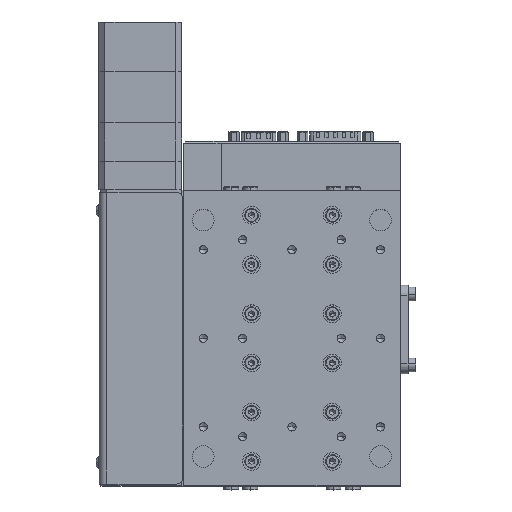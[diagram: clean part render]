
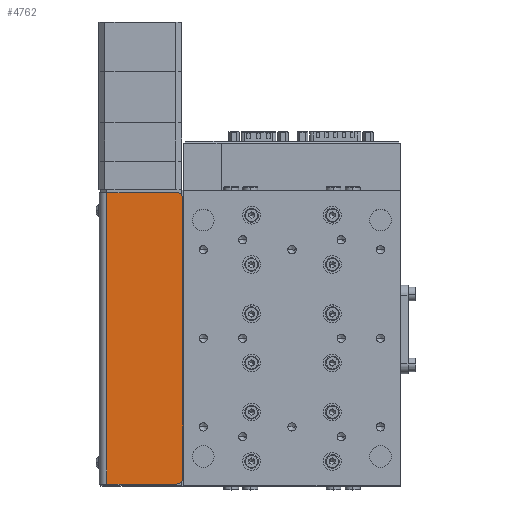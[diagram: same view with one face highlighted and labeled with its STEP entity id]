
A CAD part, top view. The second image highlights one B-rep face of the part: STEP entity #4762.
In plain terms, the highlighted planar face has unit normal (0, 0, 1).
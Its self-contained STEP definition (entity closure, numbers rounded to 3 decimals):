
#2863 = CARTESIAN_POINT ( 'NONE',  ( -94., 74., 41.1 ) ) ;
#3466 = DIRECTION ( 'NONE',  ( 0., 1., 0. ) ) ;
#3502 = DIRECTION ( 'NONE',  ( -1., 0., 0. ) ) ;
#3603 = VECTOR ( 'NONE', #3466, 1000. ) ;
#4762 = ADVANCED_FACE ( 'NONE', ( #47469 ), #36362, .F. ) ;
#5629 = AXIS2_PLACEMENT_3D ( 'NONE', #47266, #37577, #29061 ) ;
#5793 = DIRECTION ( 'NONE',  ( -1., 0., 0. ) ) ;
#7441 = DIRECTION ( 'NONE',  ( 0., 0., 1. ) ) ;
#8315 = CARTESIAN_POINT ( 'NONE',  ( -55.5, 71., 41.1 ) ) ;
#8987 = VERTEX_POINT ( 'NONE', #53202 ) ;
#11139 = EDGE_CURVE ( 'NONE', #16320, #39935, #42450, .T. ) ;
#11997 = EDGE_CURVE ( 'NONE', #49624, #22153, #27749, .T. ) ;
#12789 = DIRECTION ( 'NONE',  ( 0., 0., -1. ) ) ;
#13848 = EDGE_CURVE ( 'NONE', #32988, #16320, #14266, .T. ) ;
#13853 = CARTESIAN_POINT ( 'NONE',  ( -94., -133.391, 41.1 ) ) ;
#14266 = CIRCLE ( 'NONE', #18731, 3. ) ;
#16320 = VERTEX_POINT ( 'NONE', #38550 ) ;
#16625 = DIRECTION ( 'NONE',  ( 0., 1., 0. ) ) ;
#17171 = VECTOR ( 'NONE', #5793, 1000. ) ;
#18387 = CARTESIAN_POINT ( 'NONE',  ( -94., -74., 41.1 ) ) ;
#18731 = AXIS2_PLACEMENT_3D ( 'NONE', #43602, #7441, #21383 ) ;
#19319 = ORIENTED_EDGE ( 'NONE', *, *, #41140, .F. ) ;
#21383 = DIRECTION ( 'NONE',  ( -1., 0., 0. ) ) ;
#21603 = LINE ( 'NONE', #38280, #3603 ) ;
#22153 = VERTEX_POINT ( 'NONE', #42200 ) ;
#27749 = LINE ( 'NONE', #54990, #52732 ) ;
#27807 = AXIS2_PLACEMENT_3D ( 'NONE', #13853, #12789, #3502 ) ;
#28930 = LINE ( 'NONE', #18387, #17171 ) ;
#29061 = DIRECTION ( 'NONE',  ( -1., 0., 0. ) ) ;
#32329 = CARTESIAN_POINT ( 'NONE',  ( -58.5, -74., 41.1 ) ) ;
#32988 = VERTEX_POINT ( 'NONE', #32329 ) ;
#35930 = ORIENTED_EDGE ( 'NONE', *, *, #13848, .T. ) ;
#36362 = PLANE ( 'NONE',  #27807 ) ;
#37289 = EDGE_LOOP ( 'NONE', ( #19319, #35930, #38408, #51283, #42543, #40457 ) ) ;
#37577 = DIRECTION ( 'NONE',  ( 0., 0., 1. ) ) ;
#38280 = CARTESIAN_POINT ( 'NONE',  ( -94., -133.391, 41.1 ) ) ;
#38408 = ORIENTED_EDGE ( 'NONE', *, *, #11139, .T. ) ;
#38550 = CARTESIAN_POINT ( 'NONE',  ( -55.5, -71., 41.1 ) ) ;
#39719 = VECTOR ( 'NONE', #16625, 1000. ) ;
#39935 = VERTEX_POINT ( 'NONE', #8315 ) ;
#40457 = ORIENTED_EDGE ( 'NONE', *, *, #45691, .F. ) ;
#40880 = CIRCLE ( 'NONE', #5629, 3. ) ;
#41140 = EDGE_CURVE ( 'NONE', #32988, #8987, #28930, .T. ) ;
#42200 = CARTESIAN_POINT ( 'NONE',  ( -58.5, 74., 41.1 ) ) ;
#42450 = LINE ( 'NONE', #43101, #39719 ) ;
#42543 = ORIENTED_EDGE ( 'NONE', *, *, #11997, .F. ) ;
#43101 = CARTESIAN_POINT ( 'NONE',  ( -55.5, -133.391, 41.1 ) ) ;
#43602 = CARTESIAN_POINT ( 'NONE',  ( -58.5, -71., 41.1 ) ) ;
#45691 = EDGE_CURVE ( 'NONE', #8987, #49624, #21603, .T. ) ;
#46671 = DIRECTION ( 'NONE',  ( 1., 0., 0. ) ) ;
#47266 = CARTESIAN_POINT ( 'NONE',  ( -58.5, 71., 41.1 ) ) ;
#47286 = EDGE_CURVE ( 'NONE', #39935, #22153, #40880, .T. ) ;
#47469 = FACE_OUTER_BOUND ( 'NONE', #37289, .T. ) ;
#49624 = VERTEX_POINT ( 'NONE', #2863 ) ;
#51283 = ORIENTED_EDGE ( 'NONE', *, *, #47286, .T. ) ;
#52732 = VECTOR ( 'NONE', #46671, 1000. ) ;
#53202 = CARTESIAN_POINT ( 'NONE',  ( -94., -74., 41.1 ) ) ;
#54990 = CARTESIAN_POINT ( 'NONE',  ( -94., 74., 41.1 ) ) ;
